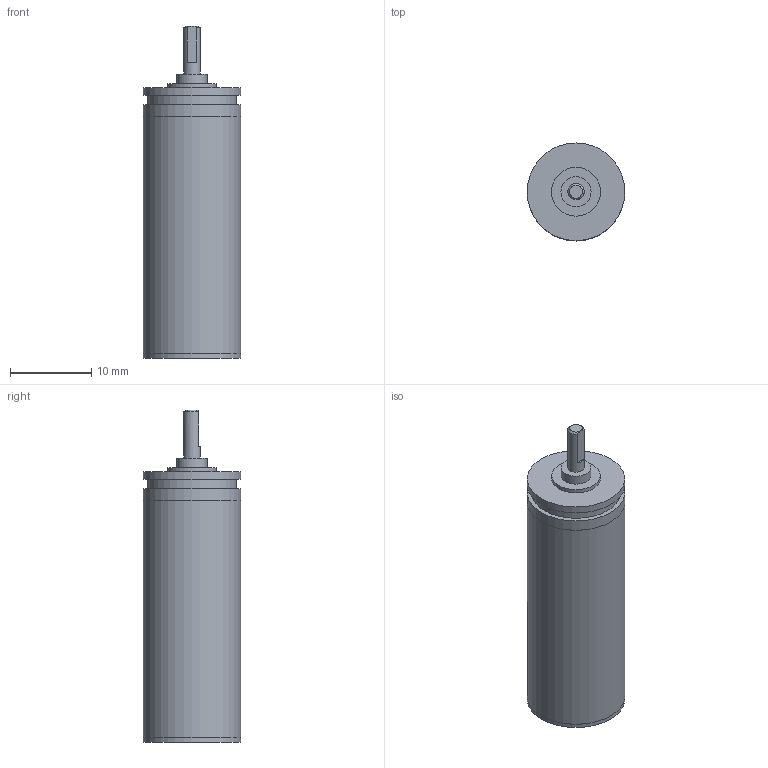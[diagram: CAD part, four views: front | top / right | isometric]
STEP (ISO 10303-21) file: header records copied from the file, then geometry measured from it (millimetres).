
FILE_DESCRIPTION(/* description */ (''),/* implementation_level */ '2;1');
FILE_NAME(/* name */ '12-3K_11.stp',/* time_stamp */ '2016-08-24T10:24:38+02:00',/* author */ ('DR. FRITZ FAULHABER GmbH & Co. KG'),/* organization */ ('DR. FRITZ FAULHABER GmbH & Co. KG'),/* preprocessor_version */ 'ST-DEVELOPER v16',/* originating_system */ 'SIEMENS PLM Software NX 10.0',/* authorisation */ '');
FILE_SCHEMA (('AUTOMOTIVE_DESIGN { 1 0 10303 214 3 1 1 1 }'));
Length unit declared in the file: millimetre
Products named in the file (1): H00000587_A
Bounding box: 12 x 12 x 40.8 mm (x, y, z)
Volume: 3704.2 mm3; surface area: 1640 mm2
Topology: 1 solids, 1 shells, 32 faces, 52 edges, 34 vertices
Faces by surface type: plane 16, cylinder 14, cone 2
Full cylindrical faces by diameter (mm): 2 x1, 2.48 x1, 2.6 x1, 3.7 x1, 5 x1, 6 x2, 10.88 x1, 11.99 x2, 12 x4
Entity records: 692 total; most frequent: DIRECTION 129, CARTESIAN_POINT 115, ORIENTED_EDGE 70, AXIS2_PLACEMENT_3D 63, EDGE_LOOP 59, FACE_BOUND 54, EDGE_CURVE 35, ADVANCED_FACE 32
